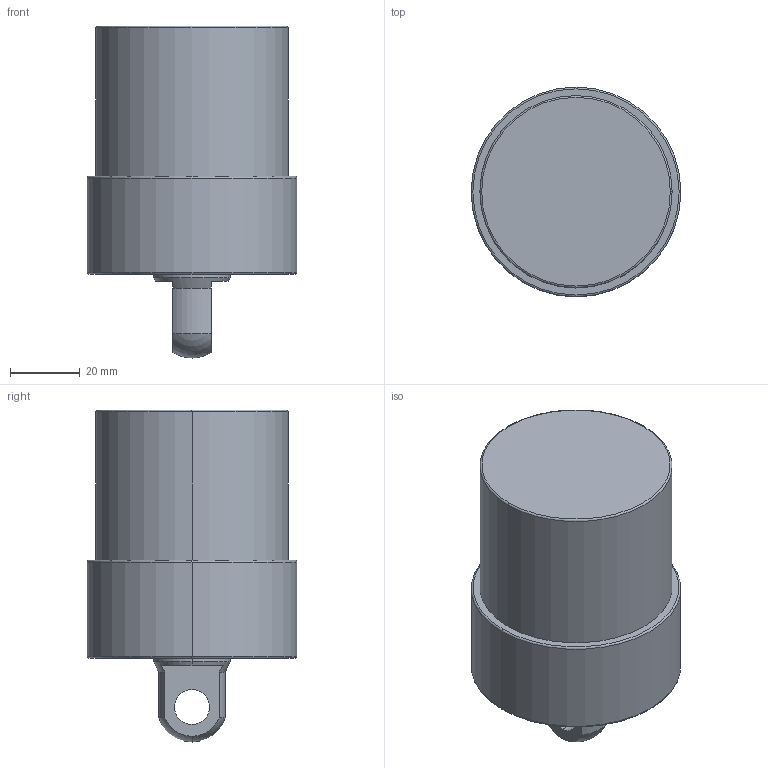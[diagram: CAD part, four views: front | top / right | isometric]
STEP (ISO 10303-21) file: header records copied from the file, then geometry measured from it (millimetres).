
FILE_DESCRIPTION (( 'STEP AP203' ), '1' );
FILE_NAME ('CLLU055-CP-030.STEP', '2017-05-12T10:43:13', ( '' ), ( '' ), 'SwSTEP 2.0', 'SolidWorks 2015', '' );
FILE_SCHEMA (( 'CONFIG_CONTROL_DESIGN' ));
Length unit declared in the file: millimetre
Products named in the file (1): CLLU055-CP-030
Bounding box: 60 x 60 x 95 mm (x, y, z)
Volume: 183558.1 mm3; surface area: 20683.6 mm2
Topology: 1 solids, 1 shells, 57 faces, 130 edges, 75 vertices
Faces by surface type: cylinder 22, cone 18, plane 9, torus 6, sphere 2
Entity records: 1643 total; most frequent: DIRECTION 308, CARTESIAN_POINT 267, ORIENTED_EDGE 244, AXIS2_PLACEMENT_3D 132, EDGE_CURVE 122, VERTEX_POINT 75, CIRCLE 74, EDGE_LOOP 67
